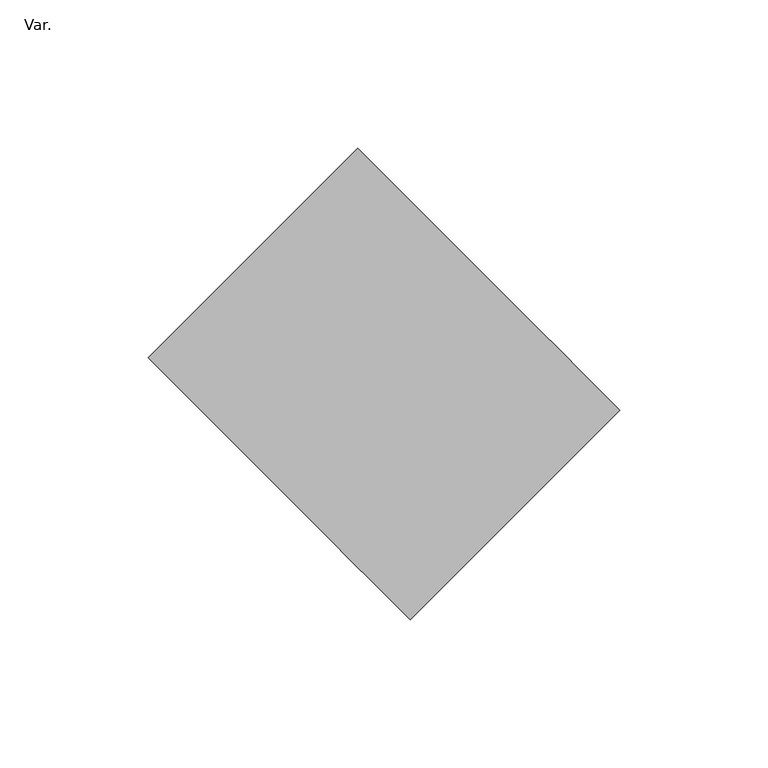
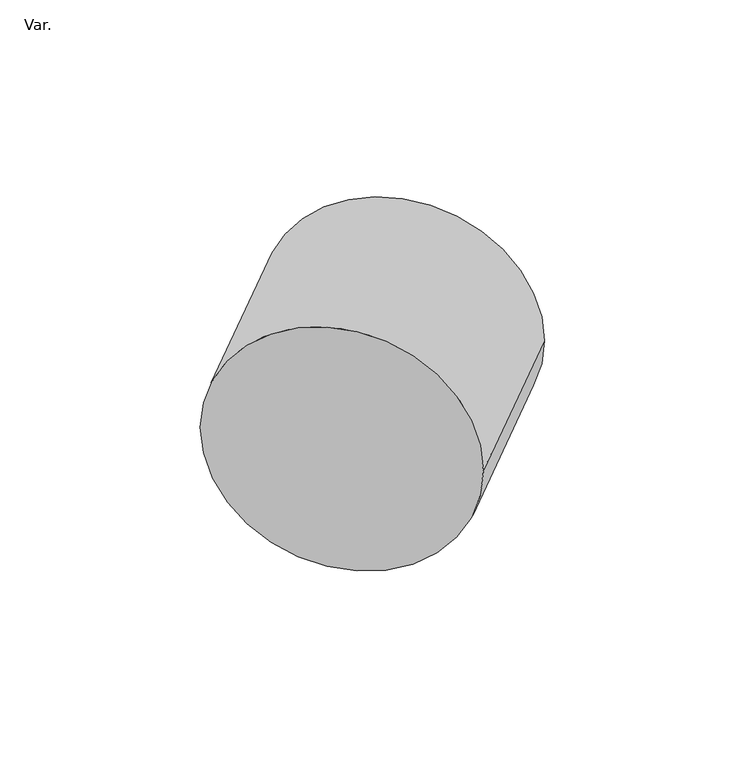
"""IFC4 building model written with IfcOpenShell, lengths in millimetres: pipe fitting geometry, PIF_HDPE 2x 45º bend_Akatherm : Var.."""

from ifc_helpers import new_model, si_unit, point, frame, origin, origin_2d, place, context, project, spatial, circle_curve, trimmed, segment, composite_curve, outline, extrude, source, transform, mapped, element, save


def var_a8d51ffa(model_context):
    return source(origin(), model_context, "Body", "SweptSolid", [
        extrude(outline(composite_curve([segment(trimmed(circle_curve(origin_2d(), 62.5), [point((0.0, 62.5))], [point((0.0, -62.5))], False, "CARTESIAN"), True, "CONTINUOUS"), segment(trimmed(circle_curve(origin_2d(), 62.5), [point((0.0, -62.5))], [point((0.0, 62.5))], False, "CARTESIAN"), True, "CONTINUOUS")], self_intersect=False)), frame((-113.7027704, 42.9920923, 0.0), z_axis=(0.7071067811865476, 0.7071067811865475, 0.0), x_axis=(0.0, 0.0, 1.0)), (0.0, 0.0, 1.0), 100.0),
    ])


if __name__ == "__main__":
    model = new_model("IFC4")
    model_context = context("Model", 3, world=origin())
    ifc_project = project(units=[si_unit("LENGTHUNIT", "METRE", prefix="MILLI")], contexts=[model_context])
    site = spatial("IfcSite", under=ifc_project)
    building = spatial("IfcBuilding", under=site)
    placement = place(None, origin())
    var_shape = var_a8d51ffa(model_context)
    element("IfcPipeFitting", 1, ObjectType="PIF_HDPE 2x 45º bend_Akatherm : Var.", at=placement, inside=building, context=model_context, shape_type="MappedRepresentation", body=[
        mapped(var_shape, transform((0.0, 0.0, 0.0), x_axis=(1.0, 0.0, 0.0), y_axis=(0.0, 1.0, 0.0), z_axis=(0.0, 0.0, 1.0))),
    ])
    save(model, "model.ifc")
